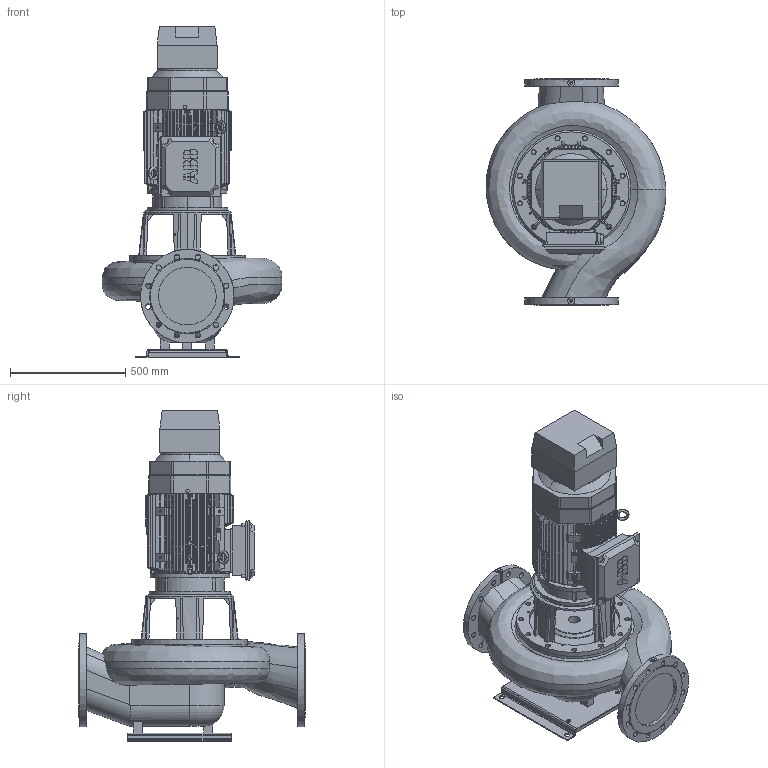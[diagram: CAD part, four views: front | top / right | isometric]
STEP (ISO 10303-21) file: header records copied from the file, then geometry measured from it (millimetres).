
FILE_DESCRIPTION(('STEP AP214'),'1');
FILE_NAME('export.stp','2018-08-08T12:43:14',(' '),(' '),'Spatial InterOp 3D',' ',' ');
FILE_SCHEMA(('AUTOMOTIVE_DESIGN { 1 0 10303 214 1 1 1 1 }'));
Length unit declared in the file: millimetre
Products named in the file (20): W_AL12506SDNC150; V_TLL125SAL1250; V_PPAL1250; P100464; P100462; P101191; P100935; IEC-180; 3GZV311000-999999-324000-324001_; 3GZV183002-193006-183002-183999_; -simplified-simplified_parts_Sta; -simplified-simplified_parts_M31; -simplified-simplified_parts_Fan; -simplified-simplified_parts_Ter; 3GZV244000-310999-294000-299999_; Implementation-STANDARD_PARTS_Li; NC_Size2
Assembly tree (21 placements, depth 3):
  W_AL12506SDNC150
    V_TLL125SAL1250
    V_PPAL1250
    P100464
      P100462
      P101191  x2
    P100935
    IEC-180
      3GZV311000-999999-324000-324001_
      3GZV183002-193006-183002-183999_
      -simplified-simplified_parts_Sta
      -simplified-simplified_parts_M31
      -simplified-simplified_parts_Fan
      -simplified-simplified_parts_Ter
      -simplified-simplified_parts_Ter
      3GZV244000-310999-294000-299999_
      3GZV244000-310999-294000-299999_
      3GZV244000-310999-294000-299999_
      Implementation-STANDARD_PARTS_Li  x2
    NC_Size2
Bounding box: 779.15 x 980 x 1432.03 mm (x, y, z)
Volume: 186549655.2 mm3; surface area: 7298489.1 mm2
Topology: 14 solids, 144 shells, 1745 faces, 4955 edges, 3363 vertices
Faces by surface type: bspline 1286, cylinder 251, plane 157, cone 46, torus 5
Entity records: 91080 total; most frequent: CARTESIAN_POINT 29197, ORIENTED_EDGE 8955, STYLED_ITEM 5038, PRESENTATION_STYLE_ASSIGNMENT 5038, COLOUR_RGB 5038, EDGE_CURVE 4723, CURVE_STYLE 3343, DRAUGHTING_PRE_DEFINED_CURVE_FONT 3343
